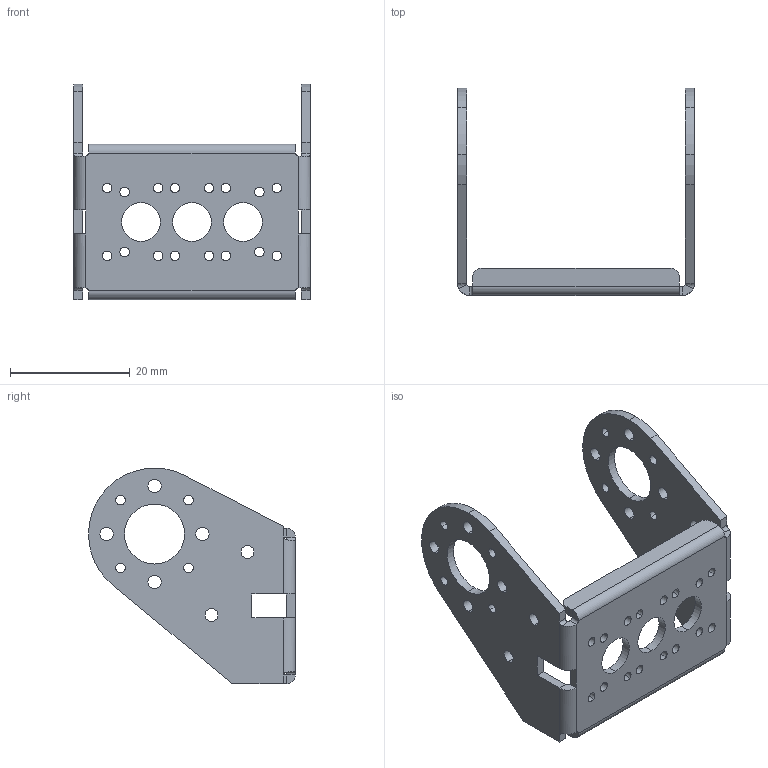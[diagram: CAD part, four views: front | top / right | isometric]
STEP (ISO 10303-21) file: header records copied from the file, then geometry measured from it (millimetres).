
FILE_DESCRIPTION((''),'2;1');
FILE_NAME('DUMMY_ADAPTOR-H','2006-05-01T',('bono'),(''),'PRO/ENGINEER BY PARAMETRIC TECHNOLOGY CORPORATION, 2005310','PRO/ENGINEER BY PARAMETRIC TECHNOLOGY CORPORATION, 2005310','');
FILE_SCHEMA(('CONFIG_CONTROL_DESIGN'));
Length unit declared in the file: millimetre
Products named in the file (1): DUMMY_ADAPTOR-H
Bounding box: 39.5 x 34.5 x 36 mm (x, y, z)
Volume: 3602.5 mm3; surface area: 5769.3 mm2
Topology: 1 solids, 1 shells, 166 faces, 456 edges, 288 vertices
Faces by surface type: cylinder 108, plane 54, bspline 4
Entity records: 5691 total; most frequent: CARTESIAN_POINT 1107, DIRECTION 988, ORIENTED_EDGE 912, EDGE_CURVE 456, AXIS2_PLACEMENT_3D 378, VERTEX_POINT 288, EDGE_LOOP 248, VECTOR 232
